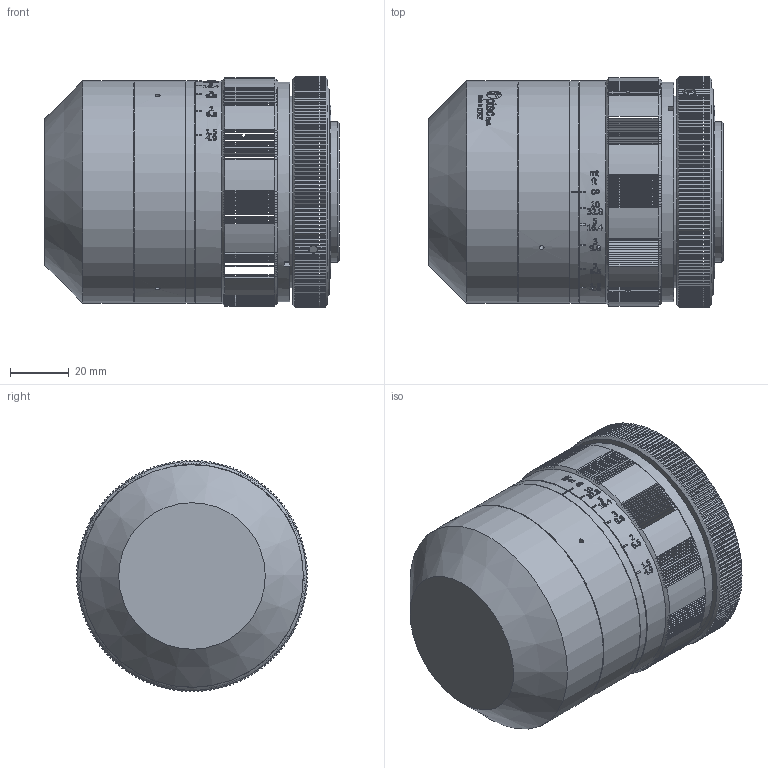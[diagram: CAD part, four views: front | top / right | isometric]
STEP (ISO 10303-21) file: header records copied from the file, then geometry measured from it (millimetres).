
FILE_DESCRIPTION((''),'2;1');
FILE_NAME('\\10.0.0.209\Doc Produ\Meccaniche\STP\A_2004\C0416\C0416_000\C0416_001.stp','2014-04-28T12:48:38',('mcilia'),(''),'Autodesk Inventor 2010','Autodesk Inventor 2010','');
FILE_SCHEMA(('AUTOMOTIVE_DESIGN { 1 0 10303 214 1 1 1 1 }'));
Length unit declared in the file: millimetre
Products named in the file (2): C0416_001_000 (Livello di dettaglio sostituto1); C0416_001
Assembly tree (1 placements, depth 2):
  C0416_001_000 (Livello di dettaglio sostituto1)
    C0416_001
Bounding box: 100.6 x 78.99 x 78.99 mm (x, y, z)
Surface area: 81154.3 mm2 (no closed solid volume)
Topology: 0 solids, 38 shells, 666 faces, 3954 edges, 3044 vertices
Faces by surface type: plane 577, cylinder 67, bspline 10, cone 10, torus 1, sphere 1
Full cylindrical faces by diameter (mm): 48 x1, 65.5 x1, 75 x1, 76 x3
Entity records: 39557 total; most frequent: CARTESIAN_POINT 13303, ORIENTED_EDGE 5448, DIRECTION 4546, EDGE_CURVE 3922, VERTEX_POINT 3036, AXIS2_PLACEMENT_3D 1672, VECTOR 1202, LINE 1202
